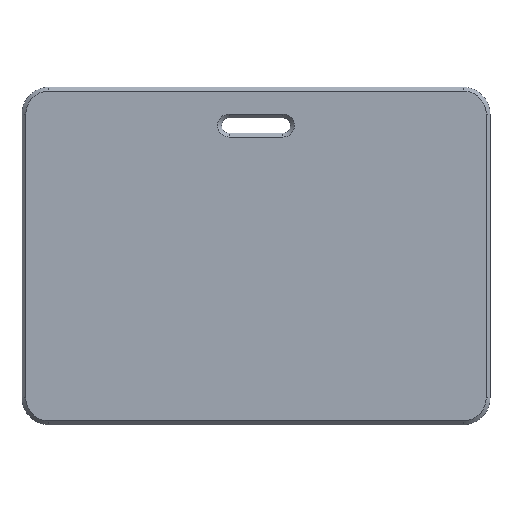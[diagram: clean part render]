
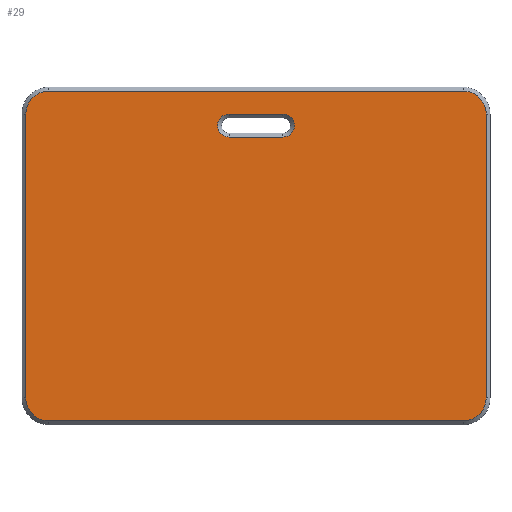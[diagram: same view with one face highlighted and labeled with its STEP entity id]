
A CAD part, top view. The second image highlights one B-rep face of the part: STEP entity #29.
In plain terms, the highlighted planar face has unit normal (0, 0, 1).
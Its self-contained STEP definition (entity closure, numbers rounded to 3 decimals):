
#24=FACE_BOUND('',#58,.T.);
#29=ADVANCED_FACE('',(#43,#24),#245,.T.);
#43=FACE_OUTER_BOUND('',#57,.T.);
#57=EDGE_LOOP('',(#82,#83,#84,#85,#86,#87,#88,#89));
#58=EDGE_LOOP('',(#90,#91,#92,#93));
#82=ORIENTED_EDGE('',*,*,#174,.F.);
#83=ORIENTED_EDGE('',*,*,#153,.F.);
#84=ORIENTED_EDGE('',*,*,#169,.F.);
#85=ORIENTED_EDGE('',*,*,#154,.F.);
#86=ORIENTED_EDGE('',*,*,#167,.F.);
#87=ORIENTED_EDGE('',*,*,#155,.F.);
#88=ORIENTED_EDGE('',*,*,#171,.F.);
#89=ORIENTED_EDGE('',*,*,#152,.F.);
#90=ORIENTED_EDGE('',*,*,#144,.F.);
#91=ORIENTED_EDGE('',*,*,#151,.T.);
#92=ORIENTED_EDGE('',*,*,#156,.F.);
#93=ORIENTED_EDGE('',*,*,#147,.T.);
#144=EDGE_CURVE('',#216,#217,#192,.T.);
#147=EDGE_CURVE('',#219,#217,#179,.T.);
#151=EDGE_CURVE('',#216,#221,#181,.T.);
#152=EDGE_CURVE('',#222,#223,#196,.T.);
#153=EDGE_CURVE('',#225,#224,#197,.T.);
#154=EDGE_CURVE('',#227,#226,#198,.T.);
#155=EDGE_CURVE('',#229,#228,#199,.T.);
#156=EDGE_CURVE('',#219,#221,#200,.T.);
#167=EDGE_CURVE('',#228,#227,#182,.T.);
#169=EDGE_CURVE('',#226,#225,#184,.T.);
#171=EDGE_CURVE('',#223,#229,#186,.T.);
#174=EDGE_CURVE('',#224,#222,#188,.T.);
#179=(
BOUNDED_CURVE()
B_SPLINE_CURVE(2,(#447,#448,#449,#450,#451),.UNSPECIFIED.,.F.,.F.)
B_SPLINE_CURVE_WITH_KNOTS((3,2,3),(-47.124,-23.562,
0.),.UNSPECIFIED.)
CURVE()
GEOMETRIC_REPRESENTATION_ITEM()
RATIONAL_B_SPLINE_CURVE((1.,0.707,1.,0.707,1.))
REPRESENTATION_ITEM('')
);
#181=(
BOUNDED_CURVE()
B_SPLINE_CURVE(2,(#461,#462,#463,#464,#465),.UNSPECIFIED.,.F.,.F.)
B_SPLINE_CURVE_WITH_KNOTS((3,2,3),(-47.124,-23.562,
0.),.UNSPECIFIED.)
CURVE()
GEOMETRIC_REPRESENTATION_ITEM()
RATIONAL_B_SPLINE_CURVE((1.,0.707,1.,0.707,1.))
REPRESENTATION_ITEM('')
);
#182=(
BOUNDED_CURVE()
B_SPLINE_CURVE(2,(#496,#497,#498),.UNSPECIFIED.,.F.,.F.)
B_SPLINE_CURVE_WITH_KNOTS((3,3),(0.,47.124),.UNSPECIFIED.)
CURVE()
GEOMETRIC_REPRESENTATION_ITEM()
RATIONAL_B_SPLINE_CURVE((1.,0.707,1.))
REPRESENTATION_ITEM('')
);
#184=(
BOUNDED_CURVE()
B_SPLINE_CURVE(2,(#502,#503,#504),.UNSPECIFIED.,.F.,.F.)
B_SPLINE_CURVE_WITH_KNOTS((3,3),(0.,47.124),.UNSPECIFIED.)
CURVE()
GEOMETRIC_REPRESENTATION_ITEM()
RATIONAL_B_SPLINE_CURVE((1.,0.707,1.))
REPRESENTATION_ITEM('')
);
#186=(
BOUNDED_CURVE()
B_SPLINE_CURVE(2,(#508,#509,#510),.UNSPECIFIED.,.F.,.F.)
B_SPLINE_CURVE_WITH_KNOTS((3,3),(0.,47.124),.UNSPECIFIED.)
CURVE()
GEOMETRIC_REPRESENTATION_ITEM()
RATIONAL_B_SPLINE_CURVE((1.,0.707,1.))
REPRESENTATION_ITEM('')
);
#188=(
BOUNDED_CURVE()
B_SPLINE_CURVE(2,(#516,#517,#518),.UNSPECIFIED.,.F.,.F.)
B_SPLINE_CURVE_WITH_KNOTS((3,3),(0.,47.124),.UNSPECIFIED.)
CURVE()
GEOMETRIC_REPRESENTATION_ITEM()
RATIONAL_B_SPLINE_CURVE((1.,0.707,1.))
REPRESENTATION_ITEM('')
);
#192=B_SPLINE_CURVE_WITH_KNOTS('',1,(#438,#439),.UNSPECIFIED.,.F.,.F.,(2,
2),(0.,70.),.UNSPECIFIED.);
#196=B_SPLINE_CURVE_WITH_KNOTS('',1,(#466,#467),.UNSPECIFIED.,.F.,.F.,(2,
2),(-540.,0.),.UNSPECIFIED.);
#197=B_SPLINE_CURVE_WITH_KNOTS('',1,(#468,#469),.UNSPECIFIED.,.F.,.F.,(2,
2),(-370.,0.),.UNSPECIFIED.);
#198=B_SPLINE_CURVE_WITH_KNOTS('',1,(#470,#471),.UNSPECIFIED.,.F.,.F.,(2,
2),(-540.,0.),.UNSPECIFIED.);
#199=B_SPLINE_CURVE_WITH_KNOTS('',1,(#472,#473),.UNSPECIFIED.,.F.,.F.,(2,
2),(-370.,0.),.UNSPECIFIED.);
#200=B_SPLINE_CURVE_WITH_KNOTS('',1,(#474,#475),.UNSPECIFIED.,.F.,.F.,(2,
2),(-70.,0.),.UNSPECIFIED.);
#216=VERTEX_POINT('',#412);
#217=VERTEX_POINT('',#413);
#219=VERTEX_POINT('',#415);
#221=VERTEX_POINT('',#417);
#222=VERTEX_POINT('',#418);
#223=VERTEX_POINT('',#419);
#224=VERTEX_POINT('',#420);
#225=VERTEX_POINT('',#421);
#226=VERTEX_POINT('',#422);
#227=VERTEX_POINT('',#423);
#228=VERTEX_POINT('',#424);
#229=VERTEX_POINT('',#425);
#245=PLANE('',#273);
#273=AXIS2_PLACEMENT_3D('',#331,#284,$);
#284=DIRECTION('',(0.,0.,1.));
#331=CARTESIAN_POINT('',(-360.012,-258.012,5.));
#412=CARTESIAN_POINT('',(-35.,155.,5.));
#413=CARTESIAN_POINT('',(35.,155.,5.));
#415=CARTESIAN_POINT('',(35.,185.,5.));
#417=CARTESIAN_POINT('',(-35.,185.,5.));
#418=CARTESIAN_POINT('',(-270.,215.,5.));
#419=CARTESIAN_POINT('',(270.,215.,5.));
#420=CARTESIAN_POINT('',(-300.,185.,5.));
#421=CARTESIAN_POINT('',(-300.,-185.,5.));
#422=CARTESIAN_POINT('',(-270.,-215.,5.));
#423=CARTESIAN_POINT('',(270.,-215.,5.));
#424=CARTESIAN_POINT('',(300.,-185.,5.));
#425=CARTESIAN_POINT('',(300.,185.,5.));
#438=CARTESIAN_POINT('',(-35.,155.,5.));
#439=CARTESIAN_POINT('',(35.,155.,5.));
#447=CARTESIAN_POINT('',(35.,185.,5.));
#448=CARTESIAN_POINT('',(50.,185.,5.));
#449=CARTESIAN_POINT('',(50.,170.,5.));
#450=CARTESIAN_POINT('',(50.,155.,5.));
#451=CARTESIAN_POINT('',(35.,155.,5.));
#461=CARTESIAN_POINT('',(-35.,155.,5.));
#462=CARTESIAN_POINT('',(-50.,155.,5.));
#463=CARTESIAN_POINT('',(-50.,170.,5.));
#464=CARTESIAN_POINT('',(-50.,185.,5.));
#465=CARTESIAN_POINT('',(-35.,185.,5.));
#466=CARTESIAN_POINT('',(-270.,215.,5.));
#467=CARTESIAN_POINT('',(270.,215.,5.));
#468=CARTESIAN_POINT('',(-300.,-185.,5.));
#469=CARTESIAN_POINT('',(-300.,185.,5.));
#470=CARTESIAN_POINT('',(270.,-215.,5.));
#471=CARTESIAN_POINT('',(-270.,-215.,5.));
#472=CARTESIAN_POINT('',(300.,185.,5.));
#473=CARTESIAN_POINT('',(300.,-185.,5.));
#474=CARTESIAN_POINT('',(35.,185.,5.));
#475=CARTESIAN_POINT('',(-35.,185.,5.));
#496=CARTESIAN_POINT('',(300.,-185.,5.));
#497=CARTESIAN_POINT('',(300.,-215.,5.));
#498=CARTESIAN_POINT('',(270.,-215.,5.));
#502=CARTESIAN_POINT('',(-270.,-215.,5.));
#503=CARTESIAN_POINT('',(-300.,-215.,5.));
#504=CARTESIAN_POINT('',(-300.,-185.,5.));
#508=CARTESIAN_POINT('',(270.,215.,5.));
#509=CARTESIAN_POINT('',(300.,215.,5.));
#510=CARTESIAN_POINT('',(300.,185.,5.));
#516=CARTESIAN_POINT('',(-300.,185.,5.));
#517=CARTESIAN_POINT('',(-300.,215.,5.));
#518=CARTESIAN_POINT('',(-270.,215.,5.));
